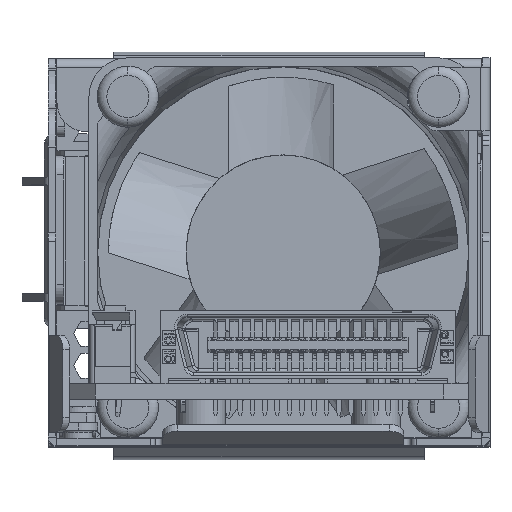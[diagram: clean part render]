
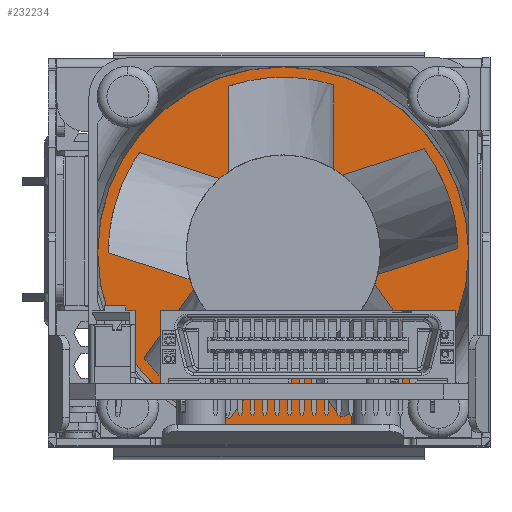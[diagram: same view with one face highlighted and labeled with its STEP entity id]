
A CAD part, top view. The second image highlights one B-rep face of the part: STEP entity #232234.
In plain terms, the highlighted planar face has unit normal (0, 0, 1).
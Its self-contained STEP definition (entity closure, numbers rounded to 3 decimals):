
#228073=CARTESIAN_POINT('',(0.,0.,10.));
#228074=DIRECTION('',(0.,0.,-1.));
#228075=DIRECTION('',(0.,-1.,0.));
#228076=AXIS2_PLACEMENT_3D('',#228073,#228074,#228075);
#228081=CARTESIAN_POINT('',(0.,0.,10.));
#228082=DIRECTION('',(0.,0.,-1.));
#228083=DIRECTION('',(0.,1.,0.));
#228084=AXIS2_PLACEMENT_3D('',#228081,#228082,#228083);
#229377=CARTESIAN_POINT('',(0.,-19.1,10.));
#229378=CARTESIAN_POINT('',(0.,19.1,10.));
#229379=VERTEX_POINT('',#229377);
#229380=VERTEX_POINT('',#229378);
#232224=CARTESIAN_POINT('',(0.,0.,10.));
#232225=DIRECTION('',(0.,0.,1.));
#232226=DIRECTION('',(-1.,0.,0.));
#232227=AXIS2_PLACEMENT_3D('',#232224,#232225,#232226);
#232228=PLANE('',#232227);
#232229=ORIENTED_EDGE('',*,*,#232211,.T.);
#232231=ORIENTED_EDGE('',*,*,#232230,.T.);
#232232=EDGE_LOOP('',(#232229,#232231));
#232233=FACE_OUTER_BOUND('',#232232,.F.);
#228077=CIRCLE('',#228076,19.1);
#228085=CIRCLE('',#228084,19.1);
#232211=EDGE_CURVE('',#229379,#229380,#228077,.T.);
#232230=EDGE_CURVE('',#229380,#229379,#228085,.T.);
#232234=ADVANCED_FACE('',(#232233),#232228,.T.);
